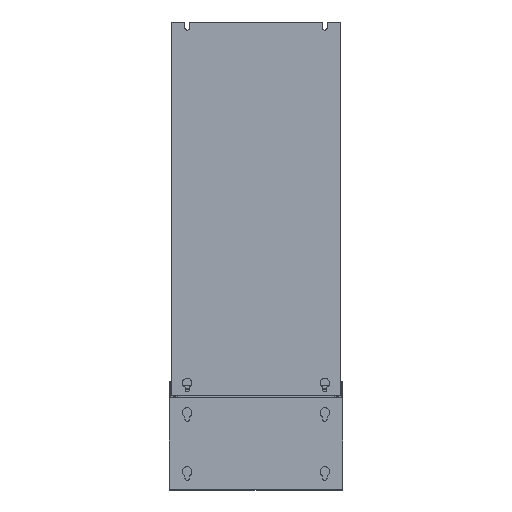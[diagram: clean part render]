
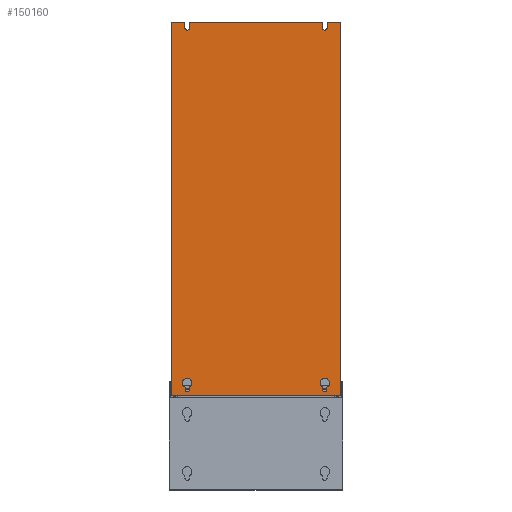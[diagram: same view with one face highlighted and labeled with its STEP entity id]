
A CAD part, front view. The second image highlights one B-rep face of the part: STEP entity #150160.
In plain terms, the highlighted planar face has unit normal (0, -1, 0).
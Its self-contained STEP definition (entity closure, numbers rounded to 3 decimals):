
#136907=CARTESIAN_POINT('',(40.,0.,935.));
#136908=DIRECTION('',(0.,-1.,0.));
#136909=DIRECTION('',(-1.,0.,0.));
#136910=AXIS2_PLACEMENT_3D('',#136907,#136908,#136909);
#136912=CARTESIAN_POINT('',(390.,0.,935.));
#136913=DIRECTION('',(0.,-1.,0.));
#136914=DIRECTION('',(-1.,0.,0.));
#136915=AXIS2_PLACEMENT_3D('',#136912,#136913,#136914);
#136917=CARTESIAN_POINT('',(390.,0.,15.));
#136918=DIRECTION('',(0.,-1.,0.));
#136919=DIRECTION('',(-1.,0.,0.));
#136920=AXIS2_PLACEMENT_3D('',#136917,#136918,#136919);
#136922=CARTESIAN_POINT('',(390.,0.,32.));
#136923=DIRECTION('',(0.,-1.,0.));
#136924=DIRECTION('',(0.458,0.,-0.889));
#136925=AXIS2_PLACEMENT_3D('',#136922,#136923,#136924);
#136927=CARTESIAN_POINT('',(390.,0.,32.));
#136928=DIRECTION('',(0.,-1.,0.));
#136929=DIRECTION('',(1.,0.,0.));
#136930=AXIS2_PLACEMENT_3D('',#136927,#136928,#136929);
#136932=CARTESIAN_POINT('',(390.,0.,32.));
#136933=DIRECTION('',(0.,-1.,0.));
#136934=DIRECTION('',(-0.458,0.,0.889));
#136935=AXIS2_PLACEMENT_3D('',#136932,#136933,#136934);
#136937=CARTESIAN_POINT('',(390.,0.,32.));
#136938=DIRECTION('',(0.,-1.,0.));
#136939=DIRECTION('',(-1.,0.,0.));
#136940=AXIS2_PLACEMENT_3D('',#136937,#136938,#136939);
#136942=CARTESIAN_POINT('',(40.,0.,32.));
#136943=DIRECTION('',(0.,-1.,0.));
#136944=DIRECTION('',(0.458,0.,-0.889));
#136945=AXIS2_PLACEMENT_3D('',#136942,#136943,#136944);
#136947=CARTESIAN_POINT('',(40.,0.,32.));
#136948=DIRECTION('',(0.,-1.,0.));
#136949=DIRECTION('',(1.,0.,0.));
#136950=AXIS2_PLACEMENT_3D('',#136947,#136948,#136949);
#136952=CARTESIAN_POINT('',(40.,0.,32.));
#136953=DIRECTION('',(0.,-1.,0.));
#136954=DIRECTION('',(-0.458,0.,0.889));
#136955=AXIS2_PLACEMENT_3D('',#136952,#136953,#136954);
#136957=CARTESIAN_POINT('',(40.,0.,32.));
#136958=DIRECTION('',(0.,-1.,0.));
#136959=DIRECTION('',(-1.,0.,0.));
#136960=AXIS2_PLACEMENT_3D('',#136957,#136958,#136959);
#136962=CARTESIAN_POINT('',(40.,0.,15.));
#136963=DIRECTION('',(0.,-1.,0.));
#136964=DIRECTION('',(-1.,0.,0.));
#136965=AXIS2_PLACEMENT_3D('',#136962,#136963,#136964);
#136967=DIRECTION('',(0.,0.,1.));
#136968=VECTOR('',#136967,950.);
#136969=CARTESIAN_POINT('',(430.,0.,0.));
#136970=LINE('',#136969,#136968);
#137003=DIRECTION('',(1.,0.,0.));
#137004=VECTOR('',#137003,430.);
#137005=CARTESIAN_POINT('',(0.,0.,0.));
#137006=LINE('',#137005,#137004);
#143282=DIRECTION('',(0.,0.,-1.));
#143283=VECTOR('',#143282,950.);
#143284=CARTESIAN_POINT('',(0.,0.,950.));
#143285=LINE('',#143284,#143283);
#143454=DIRECTION('',(0.,0.,1.));
#143455=VECTOR('',#143454,6.335);
#143456=CARTESIAN_POINT('',(384.5,0.,15.));
#143457=LINE('',#143456,#143455);
#143470=DIRECTION('',(0.,0.,-1.));
#143471=VECTOR('',#143470,6.335);
#143472=CARTESIAN_POINT('',(395.5,0.,21.335));
#143473=LINE('',#143472,#143471);
#143478=DIRECTION('',(0.,0.,-1.));
#143479=VECTOR('',#143478,6.335);
#143480=CARTESIAN_POINT('',(45.5,0.,21.335));
#143481=LINE('',#143480,#143479);
#143494=DIRECTION('',(0.,0.,1.));
#143495=VECTOR('',#143494,6.335);
#143496=CARTESIAN_POINT('',(34.5,0.,15.));
#143497=LINE('',#143496,#143495);
#143552=DIRECTION('',(-1.,0.,0.));
#143553=VECTOR('',#143552,34.25);
#143554=CARTESIAN_POINT('',(34.25,0.,950.));
#143555=LINE('',#143554,#143553);
#143572=DIRECTION('',(0.,0.,1.));
#143573=VECTOR('',#143572,15.);
#143574=CARTESIAN_POINT('',(34.25,0.,935.));
#143575=LINE('',#143574,#143573);
#143592=DIRECTION('',(0.,0.,-1.));
#143593=VECTOR('',#143592,15.);
#143594=CARTESIAN_POINT('',(45.75,0.,950.));
#143595=LINE('',#143594,#143593);
#143600=DIRECTION('',(-1.,0.,0.));
#143601=VECTOR('',#143600,338.5);
#143602=CARTESIAN_POINT('',(384.25,0.,950.));
#143603=LINE('',#143602,#143601);
#143612=DIRECTION('',(0.,0.,1.));
#143613=VECTOR('',#143612,15.);
#143614=CARTESIAN_POINT('',(384.25,0.,935.));
#143615=LINE('',#143614,#143613);
#143644=DIRECTION('',(-1.,0.,0.));
#143645=VECTOR('',#143644,34.25);
#143646=CARTESIAN_POINT('',(430.,0.,950.));
#143647=LINE('',#143646,#143645);
#143648=DIRECTION('',(0.,0.,-1.));
#143649=VECTOR('',#143648,15.);
#143650=CARTESIAN_POINT('',(395.75,0.,950.));
#143651=LINE('',#143650,#143649);
#146388=CARTESIAN_POINT('',(384.25,0.,935.));
#146389=CARTESIAN_POINT('',(395.75,0.,935.));
#146390=VERTEX_POINT('',#146388);
#146391=VERTEX_POINT('',#146389);
#146392=CARTESIAN_POINT('',(430.,0.,0.));
#146393=CARTESIAN_POINT('',(430.,0.,950.));
#146394=VERTEX_POINT('',#146392);
#146395=VERTEX_POINT('',#146393);
#146396=CARTESIAN_POINT('',(0.,0.,0.));
#146397=VERTEX_POINT('',#146396);
#146398=CARTESIAN_POINT('',(0.,0.,950.));
#146399=VERTEX_POINT('',#146398);
#146400=CARTESIAN_POINT('',(34.25,0.,950.));
#146401=VERTEX_POINT('',#146400);
#146402=CARTESIAN_POINT('',(34.25,0.,935.));
#146403=VERTEX_POINT('',#146402);
#146404=CARTESIAN_POINT('',(45.75,0.,935.));
#146405=VERTEX_POINT('',#146404);
#146406=CARTESIAN_POINT('',(45.75,0.,950.));
#146407=VERTEX_POINT('',#146406);
#146408=CARTESIAN_POINT('',(384.25,0.,950.));
#146409=VERTEX_POINT('',#146408);
#146410=CARTESIAN_POINT('',(395.75,0.,950.));
#146411=VERTEX_POINT('',#146410);
#146412=CARTESIAN_POINT('',(384.5,0.,15.));
#146413=CARTESIAN_POINT('',(395.5,0.,15.));
#146414=VERTEX_POINT('',#146412);
#146415=VERTEX_POINT('',#146413);
#146416=CARTESIAN_POINT('',(395.5,0.,21.335));
#146417=VERTEX_POINT('',#146416);
#146418=CARTESIAN_POINT('',(402.,0.,32.));
#146419=VERTEX_POINT('',#146418);
#146420=CARTESIAN_POINT('',(384.5,0.,42.665));
#146421=VERTEX_POINT('',#146420);
#146422=CARTESIAN_POINT('',(378.,0.,32.));
#146423=VERTEX_POINT('',#146422);
#146424=CARTESIAN_POINT('',(384.5,0.,21.335));
#146425=VERTEX_POINT('',#146424);
#146426=CARTESIAN_POINT('',(45.5,0.,21.335));
#146427=CARTESIAN_POINT('',(45.5,0.,15.));
#146428=VERTEX_POINT('',#146426);
#146429=VERTEX_POINT('',#146427);
#146430=CARTESIAN_POINT('',(52.,0.,32.));
#146431=VERTEX_POINT('',#146430);
#146432=CARTESIAN_POINT('',(34.5,0.,42.665));
#146433=VERTEX_POINT('',#146432);
#146434=CARTESIAN_POINT('',(28.,0.,32.));
#146435=VERTEX_POINT('',#146434);
#146436=CARTESIAN_POINT('',(34.5,0.,21.335));
#146437=VERTEX_POINT('',#146436);
#146438=CARTESIAN_POINT('',(34.5,0.,15.));
#146439=VERTEX_POINT('',#146438);
#150098=CARTESIAN_POINT('',(215.,0.,475.));
#150099=DIRECTION('',(0.,1.,0.));
#150100=DIRECTION('',(-1.,0.,0.));
#150101=AXIS2_PLACEMENT_3D('',#150098,#150099,#150100);
#150102=PLANE('',#150101);
#150104=ORIENTED_EDGE('',*,*,#150103,.F.);
#150106=ORIENTED_EDGE('',*,*,#150105,.F.);
#150108=ORIENTED_EDGE('',*,*,#150107,.F.);
#150110=ORIENTED_EDGE('',*,*,#150109,.F.);
#150112=ORIENTED_EDGE('',*,*,#150111,.F.);
#150114=ORIENTED_EDGE('',*,*,#150113,.T.);
#150116=ORIENTED_EDGE('',*,*,#150115,.F.);
#150118=ORIENTED_EDGE('',*,*,#150117,.F.);
#150120=ORIENTED_EDGE('',*,*,#150119,.F.);
#150121=ORIENTED_EDGE('',*,*,#150088,.T.);
#150123=ORIENTED_EDGE('',*,*,#150122,.F.);
#150125=ORIENTED_EDGE('',*,*,#150124,.F.);
#150126=EDGE_LOOP('',(#150104,#150106,#150108,#150110,#150112,#150114,#150116,
#150118,#150120,#150121,#150123,#150125));
#150127=FACE_OUTER_BOUND('',#150126,.F.);
#150129=ORIENTED_EDGE('',*,*,#150128,.T.);
#150131=ORIENTED_EDGE('',*,*,#150130,.F.);
#150133=ORIENTED_EDGE('',*,*,#150132,.T.);
#150135=ORIENTED_EDGE('',*,*,#150134,.T.);
#150137=ORIENTED_EDGE('',*,*,#150136,.T.);
#150139=ORIENTED_EDGE('',*,*,#150138,.T.);
#150141=ORIENTED_EDGE('',*,*,#150140,.F.);
#150142=EDGE_LOOP('',(#150129,#150131,#150133,#150135,#150137,#150139,#150141));
#150143=FACE_BOUND('',#150142,.F.);
#150145=ORIENTED_EDGE('',*,*,#150144,.F.);
#150147=ORIENTED_EDGE('',*,*,#150146,.T.);
#150149=ORIENTED_EDGE('',*,*,#150148,.T.);
#150151=ORIENTED_EDGE('',*,*,#150150,.T.);
#150153=ORIENTED_EDGE('',*,*,#150152,.T.);
#150155=ORIENTED_EDGE('',*,*,#150154,.F.);
#150157=ORIENTED_EDGE('',*,*,#150156,.T.);
#150158=EDGE_LOOP('',(#150145,#150147,#150149,#150151,#150153,#150155,#150157));
#150159=FACE_BOUND('',#150158,.F.);
#136911=CIRCLE('',#136910,5.75);
#136916=CIRCLE('',#136915,5.75);
#136921=CIRCLE('',#136920,5.5);
#136926=CIRCLE('',#136925,12.);
#136931=CIRCLE('',#136930,12.);
#136936=CIRCLE('',#136935,12.);
#136941=CIRCLE('',#136940,12.);
#136946=CIRCLE('',#136945,12.);
#136951=CIRCLE('',#136950,12.);
#136956=CIRCLE('',#136955,12.);
#136961=CIRCLE('',#136960,12.);
#136966=CIRCLE('',#136965,5.5);
#150088=EDGE_CURVE('',#146390,#146391,#136916,.T.);
#150103=EDGE_CURVE('',#146394,#146395,#136970,.T.);
#150105=EDGE_CURVE('',#146397,#146394,#137006,.T.);
#150107=EDGE_CURVE('',#146399,#146397,#143285,.T.);
#150109=EDGE_CURVE('',#146401,#146399,#143555,.T.);
#150111=EDGE_CURVE('',#146403,#146401,#143575,.T.);
#150113=EDGE_CURVE('',#146403,#146405,#136911,.T.);
#150115=EDGE_CURVE('',#146407,#146405,#143595,.T.);
#150117=EDGE_CURVE('',#146409,#146407,#143603,.T.);
#150119=EDGE_CURVE('',#146390,#146409,#143615,.T.);
#150122=EDGE_CURVE('',#146411,#146391,#143651,.T.);
#150124=EDGE_CURVE('',#146395,#146411,#143647,.T.);
#150128=EDGE_CURVE('',#146414,#146415,#136921,.T.);
#150130=EDGE_CURVE('',#146417,#146415,#143473,.T.);
#150132=EDGE_CURVE('',#146417,#146419,#136926,.T.);
#150134=EDGE_CURVE('',#146419,#146421,#136931,.T.);
#150136=EDGE_CURVE('',#146421,#146423,#136936,.T.);
#150138=EDGE_CURVE('',#146423,#146425,#136941,.T.);
#150140=EDGE_CURVE('',#146414,#146425,#143457,.T.);
#150144=EDGE_CURVE('',#146428,#146429,#143481,.T.);
#150146=EDGE_CURVE('',#146428,#146431,#136946,.T.);
#150148=EDGE_CURVE('',#146431,#146433,#136951,.T.);
#150150=EDGE_CURVE('',#146433,#146435,#136956,.T.);
#150152=EDGE_CURVE('',#146435,#146437,#136961,.T.);
#150154=EDGE_CURVE('',#146439,#146437,#143497,.T.);
#150156=EDGE_CURVE('',#146439,#146429,#136966,.T.);
#150160=ADVANCED_FACE('',(#150127,#150143,#150159),#150102,.F.);
